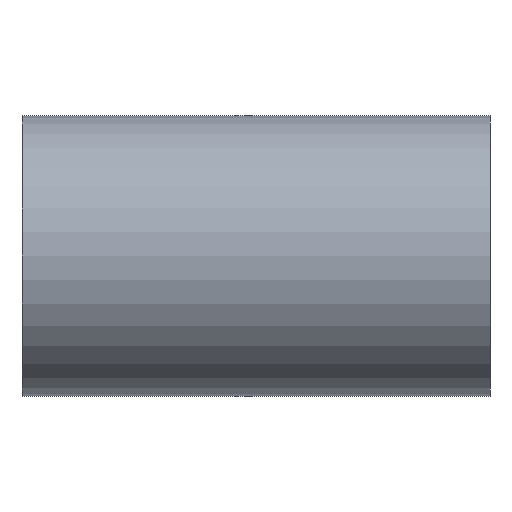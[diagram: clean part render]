
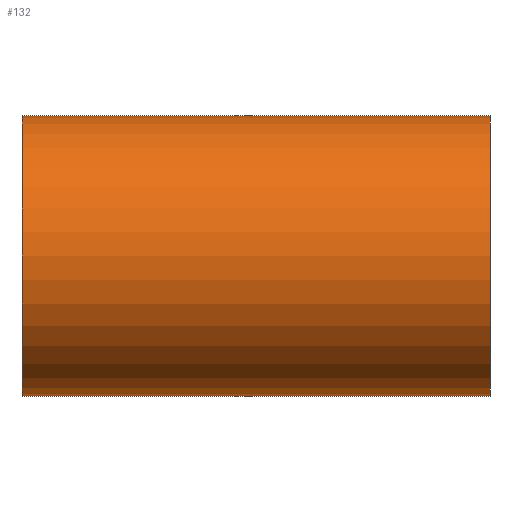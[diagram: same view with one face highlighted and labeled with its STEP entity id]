
A CAD part, front view. The second image highlights one B-rep face of the part: STEP entity #132.
In plain terms, the highlighted cylindrical face has radius 600 mm (diameter 1200 mm), a partial arc.
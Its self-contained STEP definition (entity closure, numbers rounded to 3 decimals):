
#132=ADVANCED_FACE('',(#260),#261,.T.);
#260=FACE_OUTER_BOUND('',#415,.T.);
#261=CYLINDRICAL_SURFACE('',#416,600.0);
#415=EDGE_LOOP('',(#739,#740,#741,#742));
#416=AXIS2_PLACEMENT_3D('',#743,#744,#745);
#739=ORIENTED_EDGE('',*,*,#827,.T.);
#740=ORIENTED_EDGE('',*,*,#968,.F.);
#741=ORIENTED_EDGE('',*,*,#829,.T.);
#742=ORIENTED_EDGE('',*,*,#969,.F.);
#743=CARTESIAN_POINT('',(0.0,0.0,0.0));
#744=DIRECTION('',(1.0,0.0,0.0));
#745=DIRECTION('',(0.0,0.0,-1.0));
#827=EDGE_CURVE('',#973,#974,#975,.T.);
#829=EDGE_CURVE('',#978,#976,#979,.T.);
#968=EDGE_CURVE('',#978,#974,#1186,.T.);
#969=EDGE_CURVE('',#973,#976,#1187,.T.);
#973=VERTEX_POINT('',#1191);
#974=VERTEX_POINT('',#1192);
#975=LINE('',#1193,#1194);
#976=VERTEX_POINT('',#1195);
#978=VERTEX_POINT('',#1197);
#979=LINE('',#1198,#1199);
#1186=CIRCLE('',#1440,600.0);
#1187=CIRCLE('',#1441,600.0);
#1191=CARTESIAN_POINT('',(-1000.0,0.0,-600.0));
#1192=CARTESIAN_POINT('',(1000.0,0.0,-600.0));
#1193=CARTESIAN_POINT('',(0.0,0.,-600.0));
#1194=VECTOR('',#1444,1.0);
#1195=CARTESIAN_POINT('',(-1000.0,0.,600.0));
#1197=CARTESIAN_POINT('',(1000.0,0.,600.0));
#1198=CARTESIAN_POINT('',(0.0,0.,600.0));
#1199=VECTOR('',#1448,1.0);
#1440=AXIS2_PLACEMENT_3D('',#1690,#1691,#1692);
#1441=AXIS2_PLACEMENT_3D('',#1693,#1694,#1695);
#1444=DIRECTION('',(1.0,0.0,0.0));
#1448=DIRECTION('',(-1.0,-0.0,-0.0));
#1690=CARTESIAN_POINT('',(1000.0,0.0,0.0));
#1691=DIRECTION('',(1.0,0.0,0.0));
#1692=DIRECTION('',(0.0,0.0,-1.0));
#1693=CARTESIAN_POINT('',(-1000.0,0.0,0.0));
#1694=DIRECTION('',(-1.0,0.0,0.0));
#1695=DIRECTION('',(0.0,0.0,-1.0));
